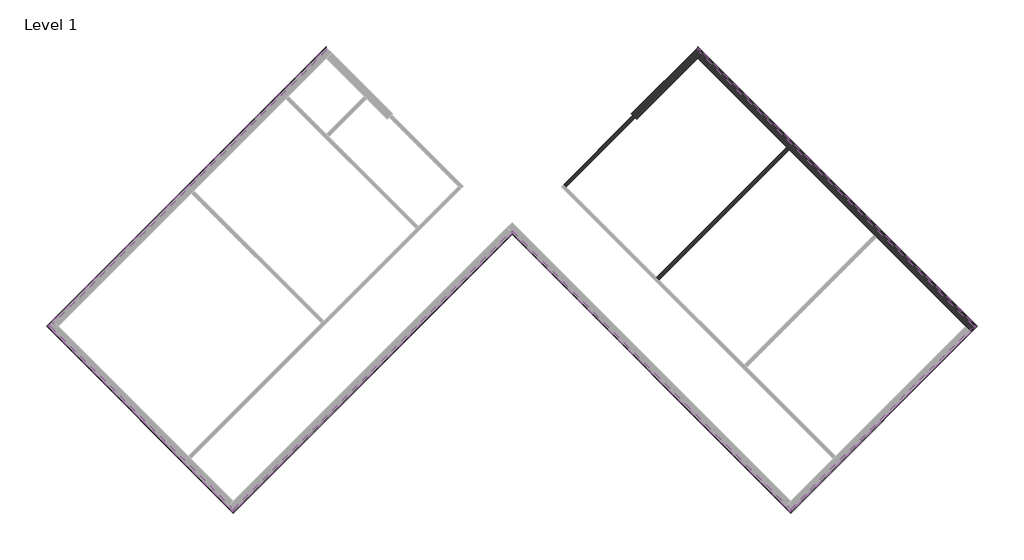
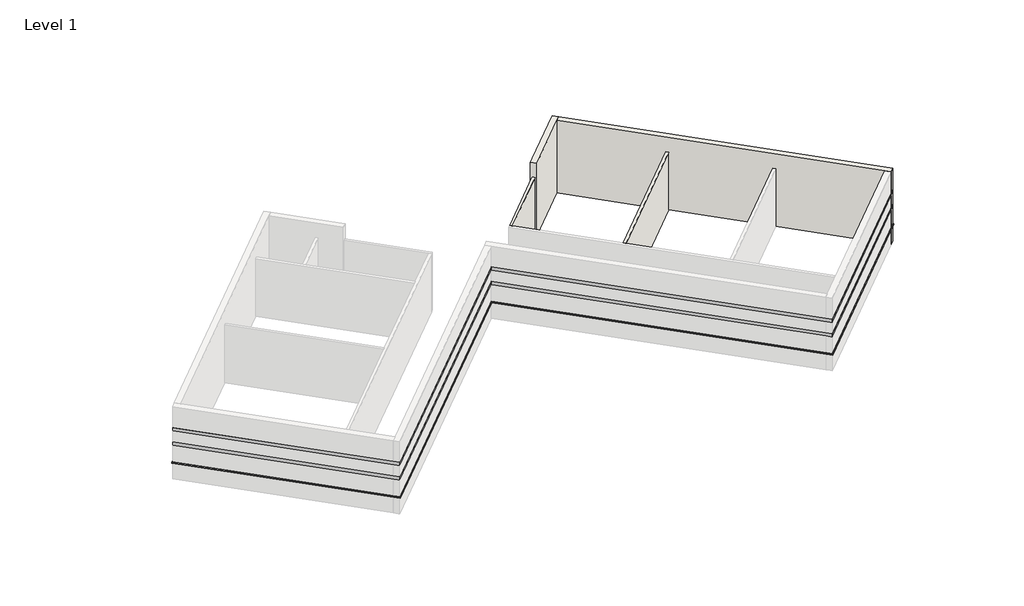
# One storey, part 2 of 2: 18 proxies, 4 walls.
"""IFC4 building model written with IfcOpenShell, lengths in millimetres."""

from ifc_helpers import new_model, si_unit, point, frame, frame_2d, origin, origin_with_axes, place, context, project, spatial, polyline, circle_curve, trimmed, segment, composite_curve, outline, extrude, faceted_brep, element, save
from ifc_brep_helpers import plane_surface, cylinder_surface, revolved_surface, advanced_brep

model = new_model("IFC4")

# Units and contexts
model_context = context("Model", 3, world=origin())
ifc_project = project(units=[si_unit("LENGTHUNIT", "METRE", prefix="MILLI")], contexts=[model_context])

# Site, building, storey
site = spatial("IfcSite", under=ifc_project)
building = spatial("IfcBuilding", under=site)
storey = spatial("IfcBuildingStorey", under=building, Name="Level 1", Elevation=0.0)

# Proxies
placement = place(None, origin())
element("IfcBuildingElementProxy", 1, Name="Wall Sweeps", at=placement, inside=storey, context=model_context, shape_type="Brep", body=[
    faceted_brep([(5753.0175119, 11443.3655905, 1085.85), (5753.0175119, 11573.5793042, 1085.85), (5753.0175119, 11622.9707129, 1041.4), (5753.0175119, 11622.9707129, 1016.0), (5753.0175119, 11443.3655905, 1016.0), (18554.3726125, -1357.9895101, 1085.85), (18554.3726125, -1357.9895101, 1016.0), (18733.9777349, -1357.9895101, 1016.0), (18733.9777349, -1357.9895101, 1041.4), (18684.5863263, -1357.9895101, 1085.85), (5937.1127624, 11259.27034, 1085.85), (5937.1127624, 11259.27034, 1016.0)], [[[0, 1, 2, 3, 4]], [[5, 6, 7, 8, 9]], [[1, 0, 10, 5, 9]], [[2, 1, 9, 8]], [[3, 2, 8, 7]], [[4, 3, 7, 6, 11]], [[0, 4, 11, 6, 5, 10]]]),
])
element("IfcBuildingElementProxy", 2, Name="Wall Sweeps", at=placement, inside=storey, context=model_context, shape_type="Brep", body=[
    faceted_brep([(5753.0175119, 11573.5793042, 2336.8), (5753.0175119, 11573.5793042, 2133.6), (5753.0175119, 11443.3655905, 2133.6), (5753.0175119, 11443.3655905, 2336.8), (18684.5863263, -1357.9895101, 2336.8), (18554.3726125, -1357.9895101, 2336.8), (18554.3726125, -1357.9895101, 2133.6), (18684.5863263, -1357.9895101, 2133.6), (6002.2196193, 11324.3771969, 2336.8), (6002.2196193, 11324.3771969, 2133.6), (5937.1127624, 11259.27034, 2133.6), (5937.1127624, 11259.27034, 2336.8)], [[[0, 1, 2, 3]], [[4, 5, 6, 7]], [[1, 0, 8, 4, 7, 9]], [[2, 1, 9, 7, 6, 10]], [[3, 2, 10, 6, 5, 11]], [[0, 3, 11, 5, 4, 8]]]),
])
element("IfcBuildingElementProxy", 3, Name="Wall Sweeps", at=placement, inside=storey, context=model_context, shape_type="Brep", body=[
    faceted_brep([(5753.0175119, 11573.5793042, 3251.2), (5753.0175119, 11573.5793042, 3048.0), (5753.0175119, 11443.3655905, 3048.0), (5753.0175119, 11443.3655905, 3251.2), (18684.5863263, -1357.9895101, 3251.2), (18554.3726125, -1357.9895101, 3251.2), (18554.3726125, -1357.9895101, 3048.0), (18684.5863263, -1357.9895101, 3048.0), (6002.2196193, 11324.3771969, 3251.2), (6002.2196193, 11324.3771969, 3048.0), (5937.1127624, 11259.27034, 3048.0), (5937.1127624, 11259.27034, 3251.2)], [[[0, 1, 2, 3]], [[4, 5, 6, 7]], [[1, 0, 8, 4, 7, 9]], [[2, 1, 9, 7, 6, 10]], [[3, 2, 10, 6, 5, 11]], [[0, 3, 11, 5, 4, 8]]]),
])
element("IfcBuildingElementProxy", 4, Name="Wall Sweeps", at=placement, inside=storey, context=model_context, shape_type="Brep", body=[
    faceted_brep([(18554.3726125, -1357.9895101, 1085.85), (18684.5863263, -1357.9895101, 1085.85), (18733.9777349, -1357.9895101, 1041.4), (18733.9777349, -1357.9895101, 1016.0), (18554.3726125, -1357.9895101, 1016.0), (10063.54045, -9848.8216726, 1085.85), (10063.54045, -9848.8216726, 1016.0), (10063.54045, -10028.426795, 1016.0), (10063.54045, -10028.426795, 1041.4), (10063.54045, -9979.0353863, 1085.85), (18370.277362, -1542.0847606, 1085.85), (18370.277362, -1542.0847606, 1016.0)], [[[0, 1, 2, 3, 4]], [[5, 6, 7, 8, 9]], [[1, 0, 10, 5, 9]], [[2, 1, 9, 8]], [[3, 2, 8, 7]], [[4, 3, 7, 6, 11]], [[0, 4, 11, 6, 5, 10]]]),
])
element("IfcBuildingElementProxy", 5, Name="Wall Sweeps", at=placement, inside=storey, context=model_context, shape_type="Brep", body=[
    faceted_brep([(18684.5863263, -1357.9895101, 2336.8), (18684.5863263, -1357.9895101, 2133.6), (18554.3726125, -1357.9895101, 2133.6), (18554.3726125, -1357.9895101, 2336.8), (10063.54045, -9979.0353863, 2336.8), (10063.54045, -9848.8216726, 2336.8), (10063.54045, -9848.8216726, 2133.6), (10063.54045, -9979.0353863, 2133.6), (18435.3842189, -1607.1916175, 2336.8), (18435.3842189, -1607.1916175, 2133.6), (18370.277362, -1542.0847606, 2133.6), (18370.277362, -1542.0847606, 2336.8)], [[[0, 1, 2, 3]], [[4, 5, 6, 7]], [[1, 0, 8, 4, 7, 9]], [[2, 1, 9, 7, 6, 10]], [[3, 2, 10, 6, 5, 11]], [[0, 3, 11, 5, 4, 8]]]),
])
element("IfcBuildingElementProxy", 6, Name="Wall Sweeps", at=placement, inside=storey, context=model_context, shape_type="Brep", body=[
    faceted_brep([(18684.5863263, -1357.9895101, 3251.2), (18684.5863263, -1357.9895101, 3048.0), (18554.3726125, -1357.9895101, 3048.0), (18554.3726125, -1357.9895101, 3251.2), (10063.54045, -9979.0353863, 3251.2), (10063.54045, -9848.8216726, 3251.2), (10063.54045, -9848.8216726, 3048.0), (10063.54045, -9979.0353863, 3048.0), (18435.3842189, -1607.1916175, 3251.2), (18435.3842189, -1607.1916175, 3048.0), (18370.277362, -1542.0847606, 3048.0), (18370.277362, -1542.0847606, 3251.2)], [[[0, 1, 2, 3]], [[4, 5, 6, 7]], [[1, 0, 8, 4, 7, 9]], [[2, 1, 9, 7, 6, 10]], [[3, 2, 10, 6, 5, 11]], [[0, 3, 11, 5, 4, 8]]]),
])
element("IfcBuildingElementProxy", 7, Name="Wall Sweeps", at=placement, inside=storey, context=model_context, shape_type="Brep", body=[
    faceted_brep([(10063.54045, -9848.8216726, 1085.85), (10063.54045, -9979.0353863, 1085.85), (10063.54045, -10028.426795, 1041.4), (10063.54045, -10028.426795, 1016.0), (10063.54045, -9848.8216726, 1016.0), (-2868.0283643, 3082.7471418, 1085.85), (-2868.0283643, 3082.7471418, 1016.0), (-2868.0283643, 2903.1420194, 1016.0), (-2868.0283643, 2903.1420194, 1041.4), (-2868.0283643, 2952.533428, 1085.85), (9879.4451996, -9664.7264221, 1085.85), (9879.4451996, -9664.7264221, 1016.0)], [[[0, 1, 2, 3, 4]], [[5, 6, 7, 8, 9]], [[1, 0, 10, 5, 9]], [[2, 1, 9, 8]], [[3, 2, 8, 7]], [[4, 3, 7, 6, 11]], [[0, 4, 11, 6, 5, 10]]]),
])
element("IfcBuildingElementProxy", 8, Name="Wall Sweeps", at=placement, inside=storey, context=model_context, shape_type="Brep", body=[
    faceted_brep([(10063.54045, -9979.0353863, 2336.8), (10063.54045, -9979.0353863, 2133.6), (10063.54045, -9848.8216726, 2133.6), (10063.54045, -9848.8216726, 2336.8), (-2868.0283643, 2952.533428, 2336.8), (-2868.0283643, 3082.7471418, 2336.8), (-2868.0283643, 3082.7471418, 2133.6), (-2868.0283643, 2952.533428, 2133.6), (9814.3383427, -9729.833279, 2336.8), (9814.3383427, -9729.833279, 2133.6), (9879.4451996, -9664.7264221, 2133.6), (9879.4451996, -9664.7264221, 2336.8)], [[[0, 1, 2, 3]], [[4, 5, 6, 7]], [[1, 0, 8, 4, 7, 9]], [[2, 1, 9, 7, 6, 10]], [[3, 2, 10, 6, 5, 11]], [[0, 3, 11, 5, 4, 8]]]),
])
element("IfcBuildingElementProxy", 9, Name="Wall Sweeps", at=placement, inside=storey, context=model_context, shape_type="Brep", body=[
    faceted_brep([(10063.54045, -9979.0353863, 3251.2), (10063.54045, -9979.0353863, 3048.0), (10063.54045, -9848.8216726, 3048.0), (10063.54045, -9848.8216726, 3251.2), (-2868.0283643, 2952.533428, 3251.2), (-2868.0283643, 3082.7471418, 3251.2), (-2868.0283643, 3082.7471418, 3048.0), (-2868.0283643, 2952.533428, 3048.0), (9814.3383427, -9729.833279, 3251.2), (9814.3383427, -9729.833279, 3048.0), (9879.4451996, -9664.7264221, 3048.0), (9879.4451996, -9664.7264221, 3251.2)], [[[0, 1, 2, 3]], [[4, 5, 6, 7]], [[1, 0, 8, 4, 7, 9]], [[2, 1, 9, 7, 6, 10]], [[3, 2, 10, 6, 5, 11]], [[0, 3, 11, 5, 4, 8]]]),
])
element("IfcBuildingElementProxy", 10, Name="Wall Sweeps", at=placement, inside=storey, context=model_context, shape_type="Brep", body=[
    faceted_brep([(-2868.0283643, 3082.7471418, 1085.85), (-2868.0283643, 2952.533428, 1085.85), (-2868.0283643, 2903.1420194, 1041.4), (-2868.0283643, 2903.1420194, 1016.0), (-2868.0283643, 3082.7471418, 1016.0), (-15799.5971786, -9848.8216726, 1085.85), (-15799.5971786, -9848.8216726, 1016.0), (-15799.5971786, -10028.426795, 1016.0), (-15799.5971786, -10028.426795, 1041.4), (-15799.5971786, -9979.0353863, 1085.85), (-2933.1352212, 3017.6402849, 1085.85), (-2933.1352212, 3017.6402849, 1016.0)], [[[0, 1, 2, 3, 4]], [[5, 6, 7, 8, 9]], [[1, 0, 10, 5, 9]], [[2, 1, 9, 8]], [[3, 2, 8, 7]], [[4, 3, 7, 6, 11]], [[0, 4, 11, 6, 5, 10]]]),
])
element("IfcBuildingElementProxy", 11, Name="Wall Sweeps", at=placement, inside=storey, context=model_context, shape_type="Brep", body=[
    faceted_brep([(-2868.0283643, 2952.533428, 2336.8), (-2868.0283643, 2952.533428, 2133.6), (-2868.0283643, 3082.7471418, 2133.6), (-2868.0283643, 3082.7471418, 2336.8), (-15799.5971786, -9979.0353863, 2336.8), (-15799.5971786, -9848.8216726, 2336.8), (-15799.5971786, -9848.8216726, 2133.6), (-15799.5971786, -9979.0353863, 2133.6), (-2933.1352212, 3017.6402849, 2133.6), (-2933.1352212, 3017.6402849, 2336.8)], [[[0, 1, 2, 3]], [[4, 5, 6, 7]], [[1, 0, 4, 7]], [[2, 1, 7, 6, 8]], [[3, 2, 8, 6, 5, 9]], [[0, 3, 9, 5, 4]]]),
])
element("IfcBuildingElementProxy", 12, Name="Wall Sweeps", at=placement, inside=storey, context=model_context, shape_type="Brep", body=[
    faceted_brep([(-2868.0283643, 2952.533428, 3251.2), (-2868.0283643, 2952.533428, 3048.0), (-2868.0283643, 3082.7471418, 3048.0), (-2868.0283643, 3082.7471418, 3251.2), (-15799.5971786, -9979.0353863, 3251.2), (-15799.5971786, -9848.8216726, 3251.2), (-15799.5971786, -9848.8216726, 3048.0), (-15799.5971786, -9979.0353863, 3048.0), (-2933.1352212, 3017.6402849, 3048.0), (-2933.1352212, 3017.6402849, 3251.2)], [[[0, 1, 2, 3]], [[4, 5, 6, 7]], [[1, 0, 4, 7]], [[2, 1, 7, 6, 8]], [[3, 2, 8, 6, 5, 9]], [[0, 3, 9, 5, 4]]]),
])
element("IfcBuildingElementProxy", 13, Name="Wall Sweeps", at=placement, inside=storey, context=model_context, shape_type="Brep", body=[
    faceted_brep([(-15799.5971786, -9848.8216726, 1085.85), (-15799.5971786, -9979.0353863, 1085.85), (-15799.5971786, -10028.426795, 1041.4), (-15799.5971786, -10028.426795, 1016.0), (-15799.5971786, -9848.8216726, 1016.0), (-24290.4293411, -1357.9895101, 1085.85), (-24290.4293411, -1357.9895101, 1016.0), (-24470.0344635, -1357.9895101, 1016.0), (-24470.0344635, -1357.9895101, 1041.4), (-24420.6430549, -1357.9895101, 1085.85), (-15983.6924291, -9664.7264221, 1085.85), (-15983.6924291, -9664.7264221, 1016.0)], [[[0, 1, 2, 3, 4]], [[5, 6, 7, 8, 9]], [[1, 0, 10, 5, 9]], [[2, 1, 9, 8]], [[3, 2, 8, 7]], [[4, 3, 7, 6, 11]], [[0, 4, 11, 6, 5, 10]]]),
])
element("IfcBuildingElementProxy", 14, Name="Wall Sweeps", at=placement, inside=storey, context=model_context, shape_type="Brep", body=[
    faceted_brep([(-15799.5971786, -9979.0353863, 2336.8), (-15799.5971786, -9979.0353863, 2133.6), (-15799.5971786, -9848.8216726, 2133.6), (-15799.5971786, -9848.8216726, 2336.8), (-24420.6430549, -1357.9895101, 2336.8), (-24290.4293411, -1357.9895101, 2336.8), (-24290.4293411, -1357.9895101, 2133.6), (-24420.6430549, -1357.9895101, 2133.6), (-16048.799286, -9729.833279, 2336.8), (-16048.799286, -9729.833279, 2133.6), (-15983.6924291, -9664.7264221, 2133.6), (-15983.6924291, -9664.7264221, 2336.8)], [[[0, 1, 2, 3]], [[4, 5, 6, 7]], [[1, 0, 8, 4, 7, 9]], [[2, 1, 9, 7, 6, 10]], [[3, 2, 10, 6, 5, 11]], [[0, 3, 11, 5, 4, 8]]]),
])
element("IfcBuildingElementProxy", 15, Name="Wall Sweeps", at=placement, inside=storey, context=model_context, shape_type="Brep", body=[
    faceted_brep([(-15799.5971786, -9979.0353863, 3251.2), (-15799.5971786, -9979.0353863, 3048.0), (-15799.5971786, -9848.8216726, 3048.0), (-15799.5971786, -9848.8216726, 3251.2), (-24420.6430549, -1357.9895101, 3251.2), (-24290.4293411, -1357.9895101, 3251.2), (-24290.4293411, -1357.9895101, 3048.0), (-24420.6430549, -1357.9895101, 3048.0), (-16048.799286, -9729.833279, 3251.2), (-16048.799286, -9729.833279, 3048.0), (-15983.6924291, -9664.7264221, 3048.0), (-15983.6924291, -9664.7264221, 3251.2)], [[[0, 1, 2, 3]], [[4, 5, 6, 7]], [[1, 0, 8, 4, 7, 9]], [[2, 1, 9, 7, 6, 10]], [[3, 2, 10, 6, 5, 11]], [[0, 3, 11, 5, 4, 8]]]),
])
element("IfcBuildingElementProxy", 16, Name="Wall Sweeps", at=placement, inside=storey, context=model_context, shape_type="Brep", body=[
    faceted_brep([(-24290.4293411, -1357.9895101, 1085.85), (-24420.6430549, -1357.9895101, 1085.85), (-24470.0344635, -1357.9895101, 1041.4), (-24470.0344635, -1357.9895101, 1016.0), (-24290.4293411, -1357.9895101, 1016.0), (-11489.0742405, 11443.3655905, 1085.85), (-11489.0742405, 11443.3655905, 1016.0), (-11489.0742405, 11622.9707129, 1016.0), (-11489.0742405, 11622.9707129, 1041.4), (-11489.0742405, 11573.5793042, 1085.85), (-24106.3340906, -1173.8942596, 1085.85), (-24106.3340906, -1173.8942596, 1016.0)], [[[0, 1, 2, 3, 4]], [[5, 6, 7, 8, 9]], [[1, 0, 10, 5, 9]], [[2, 1, 9, 8]], [[3, 2, 8, 7]], [[4, 3, 7, 6, 11]], [[0, 4, 11, 6, 5, 10]]]),
])
element("IfcBuildingElementProxy", 17, Name="Wall Sweeps", at=placement, inside=storey, context=model_context, shape_type="Brep", body=[
    faceted_brep([(-24420.6430549, -1357.9895101, 2336.8), (-24420.6430549, -1357.9895101, 2133.6), (-24290.4293411, -1357.9895101, 2133.6), (-24290.4293411, -1357.9895101, 2336.8), (-11489.0742405, 11573.5793042, 2336.8), (-11489.0742405, 11443.3655905, 2336.8), (-11489.0742405, 11443.3655905, 2133.6), (-11489.0742405, 11573.5793042, 2133.6), (-24171.4409475, -1108.7874027, 2336.8), (-24171.4409475, -1108.7874027, 2133.6), (-24106.3340906, -1173.8942596, 2133.6), (-24106.3340906, -1173.8942596, 2336.8)], [[[0, 1, 2, 3]], [[4, 5, 6, 7]], [[1, 0, 8, 4, 7, 9]], [[2, 1, 9, 7, 6, 10]], [[3, 2, 10, 6, 5, 11]], [[0, 3, 11, 5, 4, 8]]]),
])
element("IfcBuildingElementProxy", 18, Name="Wall Sweeps", at=placement, inside=storey, context=model_context, shape_type="Brep", body=[
    faceted_brep([(-24420.6430549, -1357.9895101, 3251.2), (-24420.6430549, -1357.9895101, 3048.0), (-24290.4293411, -1357.9895101, 3048.0), (-24290.4293411, -1357.9895101, 3251.2), (-11489.0742405, 11573.5793042, 3251.2), (-11489.0742405, 11443.3655905, 3251.2), (-11489.0742405, 11443.3655905, 3048.0), (-11489.0742405, 11573.5793042, 3048.0), (-24171.4409475, -1108.7874027, 3251.2), (-24171.4409475, -1108.7874027, 3048.0), (-24106.3340906, -1173.8942596, 3048.0), (-24106.3340906, -1173.8942596, 3251.2)], [[[0, 1, 2, 3]], [[4, 5, 6, 7]], [[1, 0, 8, 4, 7, 9]], [[2, 1, 9, 7, 6, 10]], [[3, 2, 10, 6, 5, 11]], [[0, 3, 11, 5, 4, 8]]]),
])

# Walls
element("IfcWall", 19, ObjectType="Exterior - Split Face and CMU on Mtl. Stud", at=placement, inside=storey, context=model_context, shape_type="AdvancedBrep", body=[
    advanced_brep(
    [(2921.9555443, 8244.1131219, 0.0), (5753.0175119, 11075.1750895, 0.0), (6002.2196193, 11324.3771969, 0.0), (6002.2196193, 11324.3771969, 1016.0), (5937.1127624, 11259.27034, 1016.0), (5937.1127624, 11259.27034, 1085.85), (6002.2196193, 11324.3771969, 1085.85), (6002.2196193, 11324.3771969, 2133.6), (5937.1127624, 11259.27034, 2133.6), (5937.1127624, 11259.27034, 2336.8), (6002.2196193, 11324.3771969, 2336.8), (6002.2196193, 11324.3771969, 3048.0), (5937.1127624, 11259.27034, 3048.0), (5937.1127624, 11259.27034, 3251.2), (6002.2196193, 11324.3771969, 3251.2), (6002.2196193, 11324.3771969, 4572.0), (5753.0175119, 11075.1750895, 4572.0), (2921.9555443, 8244.1131219, 4572.0), (2677.2250436, 8497.7868359, 4572.0), (2926.4294954, 8746.9912878, 4572.0), (5753.0175119, 11573.5793042, 4572.0), (5753.0175119, 11573.5793042, 3251.2), (2926.4294954, 8746.9912878, 3251.2), (2861.3220456, 8681.8838379, 3251.2), (2861.3220456, 8681.8838379, 3048.0), (2926.4294954, 8746.9912878, 3048.0), (5753.0175119, 11573.5793042, 3048.0), (5753.0175119, 11573.5793042, 2336.8), (2926.4294954, 8746.9912878, 2336.8), (2861.3220456, 8681.8838379, 2336.8), (2861.3220456, 8681.8838379, 2133.6), (2926.4294954, 8746.9912878, 2133.6), (5753.0175119, 11573.5793042, 2133.6), (5753.0175119, 11573.5793042, 1085.85), (2926.4294954, 8746.9912878, 1085.85), (2861.3220456, 8681.8838379, 1085.85), (2861.3220456, 8681.8838379, 1016.0), (2926.4294954, 8746.9912878, 1016.0), (5753.0175119, 11573.5793042, 1016.0), (5753.0175119, 11573.5793042, 0.0), (2926.4294954, 8746.9912878, 0.0), (2677.2250436, 8497.7868359, 0.0), (5818.1243688, 11508.4724474, 0.0), (2742.2400511, 8432.5881297, 0.0), (2746.695582, 8428.0638276, 0.0), (2854.7283421, 8316.0840715, 0.0), (5753.0175119, 11443.3655905, 1085.85), (2926.3399919, 8616.6880705, 1085.85), (2926.3399919, 8616.6880705, 1016.0), (5753.0175119, 11443.3655905, 1016.0), (2926.3399919, 8616.6880705, 2133.6), (5753.0175119, 11443.3655905, 2133.6), (2926.3399919, 8616.6880705, 2336.8), (5753.0175119, 11443.3655905, 2336.8), (2926.3399919, 8616.6880705, 3048.0), (5753.0175119, 11443.3655905, 3048.0), (2926.3399919, 8616.6880705, 3251.2), (5753.0175119, 11443.3655905, 3251.2)],
    [
        (0, 1),
        (1, 2),
        (2, 3),
        (3, 4),
        (4, 5),
        (5, 6),
        (6, 7),
        (7, 8),
        (8, 9),
        (9, 10),
        (10, 11),
        (11, 12),
        (12, 13),
        (13, 14),
        (14, 15),
        (15, 16),
        (16, 17),
        (17, 0),
        (18, 19),
        (19, 20),
        (20, 21),
        (21, 22),
        (22, 23),
        (23, 24),
        (24, 25),
        (25, 26),
        (26, 27),
        (27, 28),
        (28, 29),
        (29, 30),
        (30, 31),
        (31, 32),
        (32, 33),
        (33, 34),
        (34, 35),
        (35, 36),
        (36, 37),
        (37, 38),
        (38, 39),
        (39, 40),
        (40, 41),
        (41, 18),
        (15, 20),
        (18, 17, circle_curve(frame((-2868.0283643, 2903.1420194, 4572.0), z_axis=(0.0, 0.0, -1.0), x_axis=(1.0, 0.0, 0.0)), 7877.175)),
        (14, 21),
        (2, 42),
        (42, 39),
        (38, 3),
        (6, 33),
        (32, 7),
        (10, 27),
        (26, 11),
        (41, 43, circle_curve(frame((-2868.0283643, 2903.1420194, 0.0), z_axis=(0.0, 0.0, -1.0), x_axis=(1.0, 0.0, 0.0)), 7877.175)),
        (43, 44, circle_curve(frame((-2868.0283643, 2903.1420194, 0.0), z_axis=(0.0, 0.0, -1.0), x_axis=(1.0, 0.0, 0.0)), 7877.175)),
        (44, 45, circle_curve(frame((-2868.0283643, 2903.1420194, 0.0), z_axis=(0.0, 0.0, -1.0), x_axis=(1.0, 0.0, 0.0)), 7877.175)),
        (45, 0, circle_curve(frame((-2868.0283643, 2903.1420194, 0.0), z_axis=(0.0, 0.0, -1.0), x_axis=(1.0, 0.0, 0.0)), 7877.175)),
        (43, 42),
        (46, 47),
        (47, 35, circle_curve(frame((-2868.0283643, 2903.1420194, 1085.85), z_axis=(0.0, 0.0, 1.0), x_axis=(-0.7040995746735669, 0.7101012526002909, 0.0)), 8137.525)),
        (5, 46),
        (48, 49),
        (49, 4),
        (36, 48, circle_curve(frame((-2868.0283643, 2903.1420194, 1016.0), z_axis=(0.0, 0.0, -1.0), x_axis=(-0.7040995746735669, 0.7101012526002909, 0.0)), 8137.525)),
        (47, 48),
        (46, 49),
        (50, 51),
        (51, 8),
        (30, 50, circle_curve(frame((-2868.0283643, 2903.1420194, 2133.6), z_axis=(0.0, 0.0, -1.0), x_axis=(-0.7040995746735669, 0.7101012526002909, 0.0)), 8137.525)),
        (52, 50),
        (29, 52, circle_curve(frame((-2868.0283643, 2903.1420194, 2336.8), z_axis=(0.0, 0.0, -1.0), x_axis=(-0.7040995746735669, 0.7101012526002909, 0.0)), 8137.525)),
        (53, 52),
        (9, 53),
        (53, 51),
        (54, 55),
        (55, 12),
        (24, 54, circle_curve(frame((-2868.0283643, 2903.1420194, 3048.0), z_axis=(0.0, 0.0, -1.0), x_axis=(-0.7040995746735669, 0.7101012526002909, 0.0)), 8137.525)),
        (56, 54),
        (23, 56, circle_curve(frame((-2868.0283643, 2903.1420194, 3251.2), z_axis=(0.0, 0.0, -1.0), x_axis=(-0.7040995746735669, 0.7101012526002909, 0.0)), 8137.525)),
        (57, 56),
        (13, 57),
        (57, 55),
    ],
    [
        plane_surface(frame((2984.8535626, 8307.0111402, 0.0), z_axis=(0.707106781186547, -0.7071067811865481, 0.0), x_axis=(0.7071067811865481, 0.707106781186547, 0.0))),
        plane_surface(frame((2735.6514552, 8556.2132476, 0.0), z_axis=(-0.707106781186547, 0.7071067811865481, 0.0), x_axis=(-0.7071067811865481, -0.707106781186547, 0.0))),
        plane_surface(frame((5877.6185656, 11199.7761432, 4572.0), z_axis=(0.0, 0.0, 1.0), x_axis=(-0.707106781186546, 0.7071067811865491, 0.0))),
        plane_surface(frame((5753.0175119, 11573.5793042, 0.0), z_axis=(0.7071067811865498, 0.7071067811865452, 0.0), x_axis=(-0.7071067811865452, 0.7071067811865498, 0.0))),
        revolved_surface(polyline([(5009.146635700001, 2903.1420194, 0.0), (5009.146635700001, 2903.1420194, 4572.0)]), (-2868.0283643, 2903.1420194, 0.0), (0.0, 0.0, -1.0)),
        plane_surface(frame((3050.2065213, 8372.3640989, 0.0), z_axis=(0.0, 0.0, -1.0000000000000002), x_axis=(-0.7071067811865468, 0.7071067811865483, 0.0))),
        plane_surface(frame((0.0, 0.0, 0.0), z_axis=(0.0, 0.0, -1.0), x_axis=(1.0, 0.0, 0.0))),
        plane_surface(frame((-2868.0283643, 2903.1420194, 1085.85), z_axis=(0.0, 0.0, -1.0), x_axis=(-0.7040995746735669, 0.7101012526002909, 0.0))),
        plane_surface(frame((-2868.0283643, 2903.1420194, 1016.0), z_axis=(0.0, 0.0, 1.0), x_axis=(-0.7040995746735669, 0.7101012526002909, 0.0))),
        cylinder_surface(frame((-2868.0283643, 2903.1420194, 1016.0), z_axis=(0.0, 0.0, -1.0), x_axis=(-0.7040995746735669, 0.7101012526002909, 0.0)), 8137.525),
        plane_surface(frame((2926.3399919, 8616.6880705, 1016.0), z_axis=(-0.7071067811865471, 0.707106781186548, 0.0), x_axis=(0.707106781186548, 0.7071067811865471, 0.0))),
        plane_surface(frame((5753.0175119, 11443.3655905, 1016.0), z_axis=(0.70710678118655, 0.7071067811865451, 0.0), x_axis=(0.7071067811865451, -0.70710678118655, 0.0))),
        plane_surface(frame((-2868.0283643, 2903.1420194, 2133.6), z_axis=(0.0, 0.0, 1.0), x_axis=(-0.7040995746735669, 0.7101012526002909, 0.0))),
        cylinder_surface(frame((-2868.0283643, 2903.1420194, 2133.6), z_axis=(0.0, 0.0, -1.0), x_axis=(-0.7040995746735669, 0.7101012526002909, 0.0)), 8137.525),
        plane_surface(frame((-2868.0283643, 2903.1420194, 2336.8), z_axis=(0.0, 0.0, -1.0), x_axis=(-0.7040995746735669, 0.7101012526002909, 0.0))),
        plane_surface(frame((2926.3399919, 8616.6880705, 2133.6), z_axis=(-0.7071067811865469, 0.7071067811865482, 0.0), x_axis=(0.7071067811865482, 0.7071067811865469, 0.0))),
        plane_surface(frame((5753.0175119, 11443.3655905, 2133.6), z_axis=(0.7071067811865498, 0.7071067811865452, 0.0), x_axis=(0.7071067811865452, -0.7071067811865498, 0.0))),
        plane_surface(frame((-2868.0283643, 2903.1420194, 3048.0), z_axis=(0.0, 0.0, 1.0), x_axis=(-0.7040995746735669, 0.7101012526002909, 0.0))),
        cylinder_surface(frame((-2868.0283643, 2903.1420194, 3048.0), z_axis=(0.0, 0.0, -1.0), x_axis=(-0.7040995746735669, 0.7101012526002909, 0.0)), 8137.525),
        plane_surface(frame((-2868.0283643, 2903.1420194, 3251.2), z_axis=(0.0, 0.0, -1.0), x_axis=(-0.7040995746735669, 0.7101012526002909, 0.0))),
        plane_surface(frame((2926.3399919, 8616.6880705, 3048.0), z_axis=(-0.7071067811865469, 0.7071067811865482, 0.0), x_axis=(0.7071067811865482, 0.7071067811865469, 0.0))),
        plane_surface(frame((5753.0175119, 11443.3655905, 3048.0), z_axis=(0.7071067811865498, 0.7071067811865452, 0.0), x_axis=(0.7071067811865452, -0.7071067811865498, 0.0))),
    ],
    [
        (0, [[1, 2, 3, 4, 5, 6, 7, 8, 9, 10, 11, 12, 13, 14, 15, 16, 17, 18]]),
        (1, [[19, 20, 21, 22, 23, 24, 25, 26, 27, 28, 29, 30, 31, 32, 33, 34, 35, 36, 37, 38, 39, 40, 41, 42]]),
        (2, [[-17, -16, 43, -20, -19, 44]]),
        (3, [[-43, -15, 45, -21]]),
        (3, [[46, 47, -39, 48, -3]]),
        (3, [[49, -33, 50, -7]]),
        (3, [[51, -27, 52, -11]]),
        (4, [[-44, -42, 53, 54, 55, 56, -18]]),
        (5, [[-2, -1, -56, -55, -54, 57, -46]]),
        (6, [[-53, -41, -40, -47, -57]]),
        (7, [[58, 59, -35, -34, -49, -6, 60]]),
        (8, [[61, 62, -4, -48, -38, -37, 63]]),
        (9, [[64, -63, -36, -59]]),
        (10, [[-58, 65, -61, -64]]),
        (11, [[-65, -60, -5, -62]]),
        (12, [[66, 67, -8, -50, -32, -31, 68]]),
        (13, [[69, -68, -30, 70]]),
        (14, [[71, -70, -29, -28, -51, -10, 72]]),
        (15, [[-66, -69, -71, 73]]),
        (16, [[-73, -72, -9, -67]]),
        (17, [[74, 75, -12, -52, -26, -25, 76]]),
        (18, [[77, -76, -24, 78]]),
        (19, [[79, -78, -23, -22, -45, -14, 80]]),
        (20, [[-74, -77, -79, 81]]),
        (21, [[-81, -80, -13, -75]]),
    ],
),
])
element("IfcWall", 20, ObjectType="Exterior - Split Face and CMU on Mtl. Stud", at=placement, inside=storey, context=model_context, shape_type="Brep", body=[
    faceted_brep([(5753.0175119, 11075.1750895, 0.0), (9883.9353276, 6944.2572738, 0.0), (9993.9434651, 6834.2491364, 0.0), (13945.2561584, 2882.9364431, 0.0), (14055.2642958, 2772.9283056, 0.0), (18186.1821115, -1357.9895101, 0.0), (18435.3842189, -1607.1916175, 0.0), (18435.3842189, -1607.1916175, 1016.0), (18370.277362, -1542.0847606, 1016.0), (18370.277362, -1542.0847606, 1085.85), (18435.3842189, -1607.1916175, 1085.85), (18435.3842189, -1607.1916175, 2133.6), (18370.277362, -1542.0847606, 2133.6), (18370.277362, -1542.0847606, 2336.8), (18435.3842189, -1607.1916175, 2336.8), (18435.3842189, -1607.1916175, 3048.0), (18370.277362, -1542.0847606, 3048.0), (18370.277362, -1542.0847606, 3251.2), (18435.3842189, -1607.1916175, 3251.2), (18435.3842189, -1607.1916175, 4572.0), (18186.1821115, -1357.9895101, 4572.0), (5753.0175119, 11075.1750895, 4572.0), (6002.2196193, 11324.3771969, 4572.0), (18684.5863263, -1357.9895101, 4572.0), (18684.5863263, -1357.9895101, 3251.2), (6002.2196193, 11324.3771969, 3251.2), (18684.5863263, -1357.9895101, 0.0), (6002.2196193, 11324.3771969, 0.0), (6002.2196193, 11324.3771969, 1016.0), (18684.5863263, -1357.9895101, 1016.0), (18684.5863263, -1357.9895101, 1085.85), (6002.2196193, 11324.3771969, 1085.85), (6002.2196193, 11324.3771969, 2133.6), (18684.5863263, -1357.9895101, 2133.6), (18684.5863263, -1357.9895101, 2336.8), (6002.2196193, 11324.3771969, 2336.8), (6002.2196193, 11324.3771969, 3048.0), (18684.5863263, -1357.9895101, 3048.0), (18619.4794694, -1423.096367, 0.0), (5937.1127624, 11259.27034, 3251.2), (5937.1127624, 11259.27034, 3048.0), (5937.1127624, 11259.27034, 2336.8), (5937.1127624, 11259.27034, 2133.6), (5937.1127624, 11259.27034, 1085.85), (5937.1127624, 11259.27034, 1016.0), (5937.1127624, 11259.27034, 0.0), (18554.3726125, -1357.9895101, 1085.85), (18554.3726125, -1357.9895101, 1016.0), (18554.3726125, -1357.9895101, 2133.6), (18554.3726125, -1357.9895101, 2336.8), (18554.3726125, -1357.9895101, 3048.0), (18554.3726125, -1357.9895101, 3251.2)], [[[0, 1, 2, 3, 4, 5, 6, 7, 8, 9, 10, 11, 12, 13, 14, 15, 16, 17, 18, 19, 20, 21]], [[22, 23, 24, 25]], [[26, 27, 28, 29]], [[30, 31, 32, 33]], [[34, 35, 36, 37]], [[21, 20, 19, 23, 22]], [[23, 19, 18, 24]], [[6, 38, 26, 29, 7]], [[10, 30, 33, 11]], [[14, 34, 37, 15]], [[0, 21, 22, 25, 39, 40, 36, 35, 41, 42, 32, 31, 43, 44, 28, 27, 45]], [[6, 5, 4, 3, 2, 1, 0, 45, 38]], [[45, 27, 26, 38]], [[9, 46, 43, 31, 30, 10]], [[44, 47, 8, 7, 29, 28]], [[46, 47, 44, 43]], [[47, 46, 9, 8]], [[42, 48, 12, 11, 33, 32]], [[13, 49, 41, 35, 34, 14]], [[49, 48, 42, 41]], [[48, 49, 13, 12]], [[40, 50, 16, 15, 37, 36]], [[17, 51, 39, 25, 24, 18]], [[51, 50, 40, 39]], [[50, 51, 17, 16]]]),
])
element("IfcWall", 21, ObjectType="Interior - 6 1/8\" Partition (2-hr)", at=placement, inside=storey, context=model_context, shape_type="SweptSolid", body=[
    extrude(outline(polyline([(3846.9581502, 907.2800964), (9883.9353276, 6944.2572738), (9993.9434651, 6834.2491364), (3956.9662877, 797.271959), (3846.9581502, 907.2800964)])), origin_with_axes(), (0.0, 0.0, 1.0), 3657.6),
])
element("IfcWall", 22, ObjectType="Interior - 6 1/8\" Partition (2-hr)", at=placement, inside=storey, context=model_context, shape_type="SweptSolid", body=[
    extrude(outline(composite_curve([segment(polyline([(-463.5647879, 5217.8030346), (2746.6957919, 8428.0636143)]), True, "CONTINUOUS"), segment(trimmed(circle_curve(frame_2d((-2868.0283643, 2903.1420194)), 7877.175), [point((2746.6957919, 8428.0636143))], [point((2854.7303749, 8316.0819224))], False, "CARTESIAN"), True, "CONTINUOUS"), segment(polyline([(2854.7303749, 8316.0819224), (-353.5566504, 5107.7948971), (-463.5647879, 5217.8030346)]), True, "CONTINUOUS")], self_intersect=False)), origin_with_axes(), (0.0, 0.0, 1.0), 3657.6),
])

save(model, "model.ifc")
